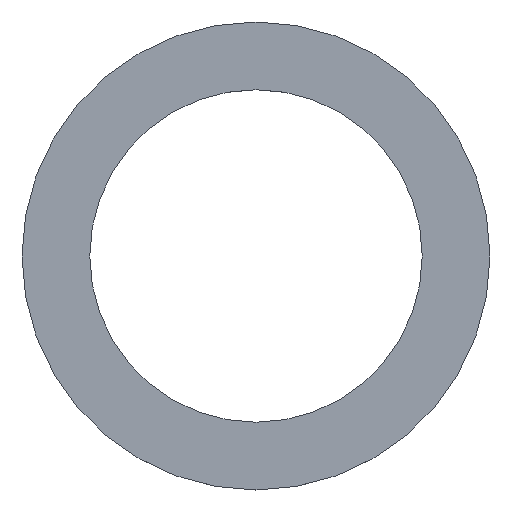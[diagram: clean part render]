
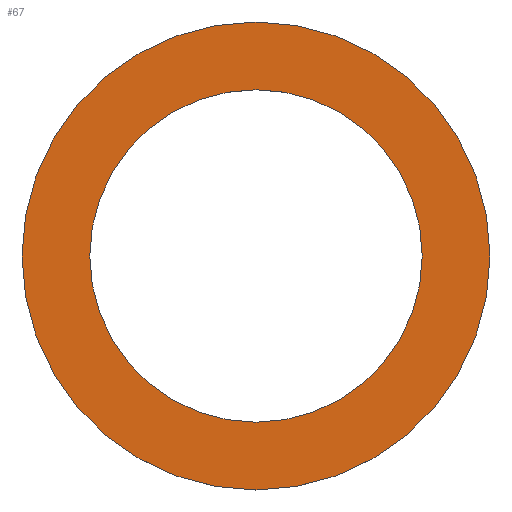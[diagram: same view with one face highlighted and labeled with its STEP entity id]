
A CAD part, top view. The second image highlights one B-rep face of the part: STEP entity #67.
In plain terms, the highlighted planar face has unit normal (0, 0, 1).
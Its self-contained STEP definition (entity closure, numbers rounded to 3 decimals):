
#67=ADVANCED_FACE('',(#103,#105),#107,.T.);
#103=FACE_BOUND('',#104,.T.);
#104=EDGE_LOOP('',(#132));
#105=FACE_BOUND('',#106,.T.);
#106=EDGE_LOOP('',(#133));
#107=PLANE('',#108);
#108=AXIS2_PLACEMENT_3D('',#109,#110,#111);
#109=CARTESIAN_POINT('',(0.,0.,0.5));
#110=DIRECTION('',(0.,0.,1.));
#111=DIRECTION('',(1.,0.,0.));
#132=ORIENTED_EDGE('',*,*,#140,.T.);
#133=ORIENTED_EDGE('',*,*,#141,.T.);
#140=EDGE_CURVE('',#146,#146,#147,.T.);
#141=EDGE_CURVE('',#148,#148,#149,.F.);
#146=VERTEX_POINT('',#160);
#147=CIRCLE('',#161,19.);
#148=VERTEX_POINT('',#165);
#149=CIRCLE('',#166,13.5);
#160=CARTESIAN_POINT('',(19.,0.,0.5));
#161=AXIS2_PLACEMENT_3D('',#162,#163,#164);
#162=CARTESIAN_POINT('',(0.,0.,0.5));
#163=DIRECTION('',(0.,0.,1.));
#164=DIRECTION('',(1.,0.,0.));
#165=CARTESIAN_POINT('',(13.5,0.,0.5));
#166=AXIS2_PLACEMENT_3D('',#167,#168,#169);
#167=CARTESIAN_POINT('',(0.,0.,0.5));
#168=DIRECTION('',(0.,0.,1.));
#169=DIRECTION('',(1.,0.,0.));
